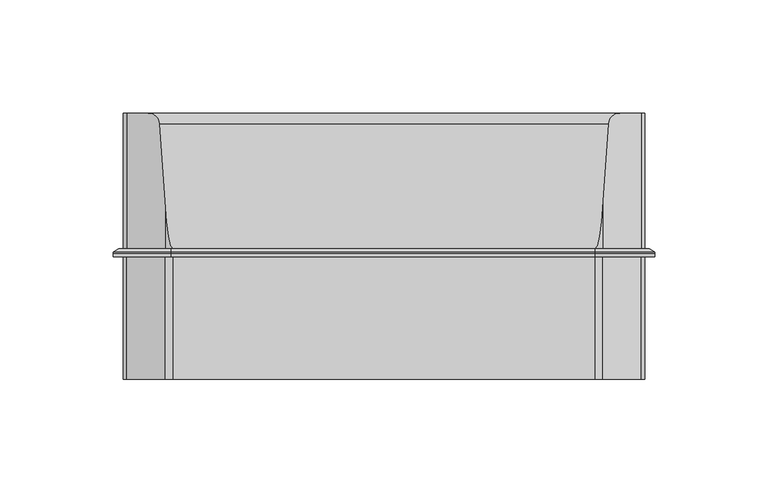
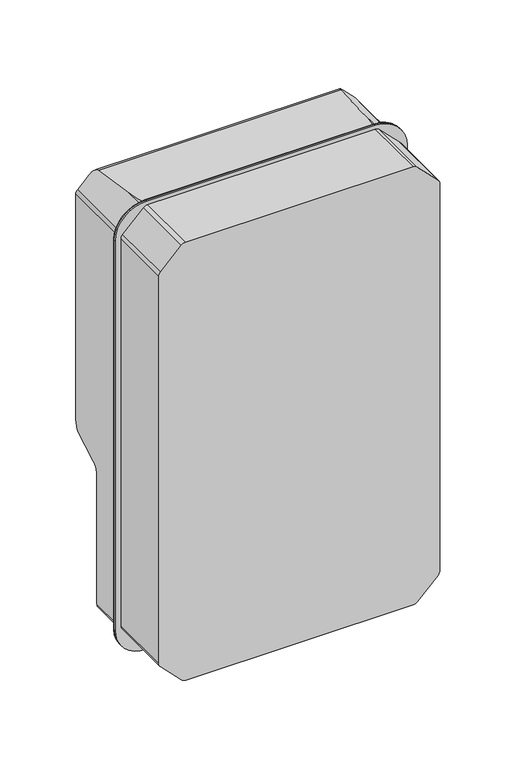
"""IFC4 building model written with IfcOpenShell, lengths in millimetres: proxy geometry, ЩУРН-П-1ф-8 : ЩУРН-П-1ф-8."""

from ifc_helpers import new_model, si_unit, point, frame, frame_2d, origin, place, context, project, spatial, polyline, circle_curve, ellipse_curve, trimmed, segment, composite_curve, outline, extrude, source, transform, mapped, element, save
from ifc_brep_helpers import plane_surface, cylinder_surface, revolved_surface, advanced_brep


def electrical_equipment_93f16f87(model_context):
    return source(origin(), model_context, "Body", "SolidModel", [
        extrude(outline(composite_curve([segment(trimmed(circle_curve(frame_2d((113.9603207, -55.5)), 2.0), [point((115.9603207, -55.5))], [point((113.9603207, -57.5))], False, "CARTESIAN"), True, "CONTINUOUS"), segment(polyline([(113.9603207, -57.5), (42.9603207, -57.5)]), True, "CONTINUOUS"), segment(trimmed(circle_curve(frame_2d((42.9603207, -55.5)), 2.0), [point((42.9603207, -57.5))], [point((40.9603207, -55.5))], False, "CARTESIAN"), True, "CONTINUOUS"), segment(polyline([(40.9603207, -55.5), (40.9603207, 55.5)]), True, "CONTINUOUS"), segment(trimmed(circle_curve(frame_2d((42.9603207, 55.5)), 2.0), [point((40.9603207, 55.5))], [point((42.9603207, 57.5))], False, "CARTESIAN"), True, "CONTINUOUS"), segment(polyline([(42.9603207, 57.5), (113.9603207, 57.5)]), True, "CONTINUOUS"), segment(trimmed(circle_curve(frame_2d((113.9603207, 55.5)), 2.0), [point((113.9603207, 57.5))], [point((115.9603207, 55.5))], False, "CARTESIAN"), True, "CONTINUOUS"), segment(polyline([(115.9603207, 55.5), (115.9603207, -55.5)]), True, "CONTINUOUS")], self_intersect=False)), frame((0.0, 107.3, 0.0), z_axis=(0.0, 1.0, 0.0), x_axis=(0.0, 0.0, 1.0)), (0.0, 0.0, 1.0), 5.0),
        extrude(outline(composite_curve([segment(trimmed(circle_curve(frame_2d((-100.2396793, -74.5)), 2.0), [point((-98.2396793, -74.5))], [point((-100.2396793, -76.5))], False, "CARTESIAN"), True, "CONTINUOUS"), segment(polyline([(-100.2396793, -76.5), (-146.2396793, -76.5)]), True, "CONTINUOUS"), segment(trimmed(circle_curve(frame_2d((-146.2396793, -74.5)), 2.0), [point((-146.2396793, -76.5))], [point((-148.2396793, -74.5))], False, "CARTESIAN"), True, "CONTINUOUS"), segment(polyline([(-148.2396793, -74.5), (-148.2396793, 74.5)]), True, "CONTINUOUS"), segment(trimmed(circle_curve(frame_2d((-146.2396793, 74.5)), 2.0), [point((-148.2396793, 74.5))], [point((-146.2396793, 76.5))], False, "CARTESIAN"), True, "CONTINUOUS"), segment(polyline([(-146.2396793, 76.5), (-100.2396793, 76.5)]), True, "CONTINUOUS"), segment(trimmed(circle_curve(frame_2d((-100.2396793, 74.5)), 2.0), [point((-100.2396793, 76.5))], [point((-98.2396793, 74.5))], False, "CARTESIAN"), True, "CONTINUOUS"), segment(polyline([(-98.2396793, 74.5), (-98.2396793, -74.5)]), True, "CONTINUOUS")], self_intersect=False)), frame((0.0, 87.3, 0.0), z_axis=(0.0, 1.0, 0.0), x_axis=(0.0, 0.0, 1.0)), (0.0, 0.0, 1.0), 5.0),
        advanced_brep(
        [(115.3, 89.8, -56.0442662), (115.3, 94.8, -47.3840122), (115.3, 117.0872807, -34.5164447), (115.3, 119.8, -25.9127981), (115.3, 119.8, 166.2644661), (115.3, 119.8, 169.1933983), (115.3, 59.8, 169.1933983), (115.3, 59.8, 166.2644661), (115.3, 59.8, -165.3355339), (115.3, 59.8, -168.2644661), (115.3, 89.8, -168.2644661), (115.3, 89.8, -165.3355339), (-115.3, 119.8, -25.9127981), (-115.3, 117.0872807, -34.5164447), (-115.3, 94.8, -47.3840122), (-115.3, 89.8, -56.0442662), (-115.3, 89.8, -165.3355339), (-115.3, 89.8, -168.2644661), (-115.3, 59.8, -168.2644661), (-115.3, 59.8, -165.3355339), (-115.3, 59.8, 166.2644661), (-115.3, 59.8, 169.1933983), (-115.3, 119.8, 169.1933983), (-115.3, 119.8, 166.2644661), (113.8355339, 59.8, 172.7289322), (96.7644661, 59.8, 189.8), (93.2289322, 59.8, 191.2644661), (89.5745517, 59.8, 191.2644661), (-89.5745517, 59.8, 191.2644661), (-93.2289322, 59.8, 191.2644661), (-96.7644661, 59.8, 189.8), (-113.8355339, 59.8, 172.7289322), (-113.8355339, 59.8, -171.8), (-96.7644661, 59.8, -188.8710678), (-93.2289322, 59.8, -190.3355339), (-89.5745517, 59.8, -190.3355339), (89.5745517, 59.8, -190.3355339), (93.2289322, 59.8, -190.3355339), (96.7644661, 59.8, -188.8710678), (113.8355339, 59.8, -171.8), (-96.7644661, 81.7669914, -188.8710678), (-96.9888397, 85.1325951, -188.6466942), (96.9888397, 85.1325951, -188.6466942), (96.7644661, 81.7669914, -188.8710678), (-101.9777655, 89.8, -183.6577684), (101.9777655, 89.8, -183.6577684), (113.8355339, 89.8, -171.8), (-113.8355339, 89.8, -171.8), (-73.35, 89.8, -100.5355339), (-73.35, 89.8, -145.3355339), (73.35, 89.8, -145.3355339), (73.35, 89.8, -100.5355339), (-113.8355339, 119.8, 172.7289322), (-104.1581841, 119.8, 182.4062819), (104.1581841, 119.8, 182.4062819), (113.8355339, 119.8, 172.7289322), (-60.0, 119.8, 138.7644661), (-85.0, 119.8, 113.7644661), (-85.0, 119.8, 43.7644661), (-60.0, 119.8, 18.7644661), (60.0, 119.8, 18.7644661), (85.0, 119.8, 43.7644661), (85.0, 119.8, 113.7644661), (60.0, 119.8, 138.7644661), (-99.1703639, 115.1487824, 187.3941022), (99.1703639, 115.1487824, 187.3941022), (96.7644661, 80.7428409, 189.8), (-96.7644661, 80.7428409, 189.8), (-60.0, 109.8, 138.7644661), (60.0, 109.8, 138.7644661), (85.0, 109.8, 113.7644661), (85.0, 109.8, 43.7644661), (60.0, 109.8, 18.7644661), (-60.0, 109.8, 18.7644661), (-85.0, 109.8, 43.7644661), (-85.0, 109.8, 113.7644661), (-55.25, 109.8, 114.6144661), (-55.25, 109.8, 42.9144661), (55.25, 109.8, 42.9144661), (55.25, 109.8, 114.6144661), (-73.35, 81.114171, -100.5355339), (73.35, 81.114171, -100.5355339), (73.35, 81.114171, -145.3355339), (-73.35, 81.114171, -145.3355339), (-55.25, 103.1985224, 114.6144661), (55.25, 103.1985224, 114.6144661), (55.25, 103.1985224, 42.9144661), (-55.25, 103.1985224, 42.9144661)],
        [
            (0, 1, circle_curve(frame((115.3, 99.8, -56.0442662), z_axis=(-1.0, 0.0, 0.0), x_axis=(0.0, 1.0, 0.0)), 10.0)),
            (1, 2),
            (2, 3, circle_curve(frame((115.3, 104.8, -25.9127981), z_axis=(1.0, 0.0, 0.0), x_axis=(0.0, 1.0, 0.0)), 15.0)),
            (3, 4),
            (4, 5),
            (5, 6),
            (6, 7),
            (7, 8),
            (8, 9),
            (9, 10),
            (10, 11),
            (11, 0),
            (12, 13, circle_curve(frame((-115.3, 104.8, -25.9127981), z_axis=(-1.0, 0.0, 0.0), x_axis=(0.0, 1.0, 0.0)), 15.0)),
            (13, 14),
            (14, 15, circle_curve(frame((-115.3, 99.8, -56.0442662), z_axis=(1.0, 0.0, 0.0), x_axis=(0.0, 1.0, 0.0)), 10.0)),
            (15, 16),
            (16, 17),
            (17, 18),
            (18, 19),
            (19, 20),
            (20, 21),
            (21, 22),
            (22, 23),
            (23, 12),
            (6, 24, circle_curve(frame((110.3, 59.8, 169.1933983), z_axis=(0.0, -1.0, 0.0), x_axis=(1.0, 0.0, 0.0)), 5.0)),
            (24, 25),
            (25, 26, circle_curve(frame((93.2289322, 59.8, 186.2644661), z_axis=(0.0, -1.0, 0.0), x_axis=(1.0, 0.0, 0.0)), 5.0)),
            (26, 27),
            (27, 28),
            (28, 29),
            (29, 30, circle_curve(frame((-93.2289322, 59.8, 186.2644661), z_axis=(0.0, -1.0, 0.0), x_axis=(1.0, 0.0, 0.0)), 5.0)),
            (30, 31),
            (31, 21, circle_curve(frame((-110.3, 59.8, 169.1933983), z_axis=(0.0, -1.0, 0.0), x_axis=(1.0, 0.0, 0.0)), 5.0)),
            (18, 32, circle_curve(frame((-110.3, 59.8, -168.2644661), z_axis=(0.0, -1.0, 0.0), x_axis=(1.0, 0.0, 0.0)), 5.0)),
            (32, 33),
            (33, 34, circle_curve(frame((-93.2289322, 59.8, -185.3355339), z_axis=(0.0, -1.0, 0.0), x_axis=(1.0, 0.0, 0.0)), 5.0)),
            (34, 35),
            (35, 36),
            (36, 37),
            (37, 38, circle_curve(frame((93.2289322, 59.8, -185.3355339), z_axis=(0.0, -1.0, 0.0), x_axis=(1.0, 0.0, 0.0)), 5.0)),
            (38, 39),
            (39, 9, circle_curve(frame((110.3, 59.8, -168.2644661), z_axis=(0.0, -1.0, 0.0), x_axis=(1.0, 0.0, 0.0)), 5.0)),
            (34, 40, ellipse_curve(frame((-93.2289322, 134.8, -185.3355339), z_axis=(0.0, 0.06651901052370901, -0.9977851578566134), x_axis=(0.0, 0.9977851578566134, 0.06651901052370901)), 75.1664819, 5.0)),
            (40, 41),
            (41, 42),
            (42, 43),
            (43, 37, ellipse_curve(frame((93.2289322, 134.8, -185.3355339), z_axis=(0.0, 0.06651901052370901, -0.9977851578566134), x_axis=(0.0, 0.9977851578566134, 0.06651901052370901)), 75.1664819, 5.0)),
            (41, 44, ellipse_curve(frame((-101.9777655, 84.8, -183.6577684), z_axis=(0.7071067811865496, 0.0, 0.7071067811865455), x_axis=(0.7071067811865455, 0.0, -0.7071067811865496)), 7.0710678, 5.0)),
            (44, 45),
            (45, 42, ellipse_curve(frame((101.9777655, 84.8, -183.6577684), z_axis=(-0.70710678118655, 0.0, 0.7071067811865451), x_axis=(0.7071067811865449, 0.0, 0.70710678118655)), 7.0710678, 5.0)),
            (15, 0),
            (10, 46, circle_curve(frame((110.3, 89.8, -168.2644661), z_axis=(0.0, 1.0, 0.0), x_axis=(1.0, 0.0, 0.0)), 5.0)),
            (46, 45),
            (44, 47),
            (47, 17, circle_curve(frame((-110.3, 89.8, -168.2644661), z_axis=(0.0, 1.0, 0.0), x_axis=(1.0, 0.0, 0.0)), 5.0)),
            (48, 49),
            (49, 50),
            (50, 51),
            (51, 48),
            (3, 12),
            (22, 52, circle_curve(frame((-110.3, 119.8, 169.1933983), z_axis=(0.0, 1.0, 0.0), x_axis=(1.0, 0.0, 0.0)), 5.0)),
            (52, 53),
            (53, 54),
            (54, 55),
            (55, 5, circle_curve(frame((110.3, 119.8, 169.1933983), z_axis=(0.0, 1.0, 0.0), x_axis=(1.0, 0.0, 0.0)), 5.0)),
            (56, 57, circle_curve(frame((-60.0, 119.8, 113.7644661), z_axis=(0.0, -1.0, 0.0), x_axis=(1.0, 0.0, 0.0)), 25.0)),
            (57, 58),
            (58, 59, circle_curve(frame((-60.0, 119.8, 43.7644661), z_axis=(0.0, -1.0, 0.0), x_axis=(1.0, 0.0, 0.0)), 25.0)),
            (59, 60),
            (60, 61, circle_curve(frame((60.0, 119.8, 43.7644661), z_axis=(0.0, -1.0, 0.0), x_axis=(1.0, 0.0, 0.0)), 25.0)),
            (61, 62),
            (62, 63, circle_curve(frame((60.0, 119.8, 113.7644661), z_axis=(0.0, -1.0, 0.0), x_axis=(1.0, 0.0, 0.0)), 25.0)),
            (63, 56),
            (53, 64, ellipse_curve(frame((-104.1581841, 114.8, 182.4062819), z_axis=(0.7071067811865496, 0.0, -0.7071067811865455), x_axis=(0.7071067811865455, 0.0, 0.7071067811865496)), 7.0710678, 5.0)),
            (64, 65),
            (65, 54, ellipse_curve(frame((104.1581841, 114.8, 182.4062819), z_axis=(-0.70710678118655, 0.0, -0.7071067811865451), x_axis=(0.7071067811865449, 0.0, -0.70710678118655)), 7.0710678, 5.0)),
            (26, 66, ellipse_curve(frame((93.2289322, 131.3033313, 186.2644661), z_axis=(0.0, 0.06975647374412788, 0.9975640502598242), x_axis=(0.0, 0.9975640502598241, -0.0697564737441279)), 71.6779351, 5.0)),
            (66, 65),
            (64, 67),
            (67, 29, ellipse_curve(frame((-93.2289322, 131.3033313, 186.2644661), z_axis=(0.0, 0.06975647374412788, 0.9975640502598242), x_axis=(0.0, 0.9975640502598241, -0.0697564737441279)), 71.6779351, 5.0)),
            (25, 66),
            (24, 55),
            (39, 46),
            (38, 43),
            (31, 52),
            (30, 67),
            (33, 40),
            (32, 47),
            (14, 1),
            (13, 2),
            (68, 69),
            (69, 70, circle_curve(frame((60.0, 109.8, 113.7644661), z_axis=(0.0, 1.0, 0.0), x_axis=(1.0, 0.0, 0.0)), 25.0)),
            (70, 71),
            (71, 72, circle_curve(frame((60.0, 109.8, 43.7644661), z_axis=(0.0, 1.0, 0.0), x_axis=(1.0, 0.0, 0.0)), 25.0)),
            (72, 73),
            (73, 74, circle_curve(frame((-60.0, 109.8, 43.7644661), z_axis=(0.0, 1.0, 0.0), x_axis=(1.0, 0.0, 0.0)), 25.0)),
            (74, 75),
            (75, 68, circle_curve(frame((-60.0, 109.8, 113.7644661), z_axis=(0.0, 1.0, 0.0), x_axis=(1.0, 0.0, 0.0)), 25.0)),
            (76, 77),
            (77, 78),
            (78, 79),
            (79, 76),
            (75, 57),
            (56, 68),
            (74, 58),
            (73, 59),
            (72, 60),
            (71, 61),
            (70, 62),
            (69, 63),
            (80, 81),
            (81, 82),
            (82, 83),
            (83, 80),
            (83, 49),
            (48, 80),
            (82, 50),
            (81, 51),
            (84, 85),
            (85, 86),
            (86, 87),
            (87, 84),
            (87, 77),
            (76, 84),
            (86, 78),
            (85, 79),
        ],
        [
            plane_surface(frame((115.3, 59.8, 191.2644661), z_axis=(1.0, 0.0, 0.0), x_axis=(0.0, 0.0, -1.0))),
            plane_surface(frame((-115.3, 59.8, 191.2644661), z_axis=(-1.0, 0.0, 0.0), x_axis=(0.0, 0.0, 1.0))),
            plane_surface(frame((115.3, 59.8, 191.2644661), z_axis=(0.0, -1.0, 0.0), x_axis=(-1.0, 0.0, 0.0))),
            plane_surface(frame((115.3, 59.8, -190.3355339), z_axis=(0.0, 0.06651901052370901, -0.9977851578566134), x_axis=(-1.0, 0.0, 0.0))),
            cylinder_surface(frame((-115.3, 84.8, -183.6577684), z_axis=(1.0, 0.0, 0.0), x_axis=(0.0, 1.0, 0.0)), 5.0),
            plane_surface(frame((115.3, 89.8, -183.6577684), z_axis=(0.0, 1.0, 0.0), x_axis=(-1.0, 0.0, 0.0))),
            plane_surface(frame((115.3, 119.8, -25.9127981), z_axis=(0.0, 1.0, 0.0), x_axis=(-1.0, 0.0, 0.0))),
            cylinder_surface(frame((-115.3, 114.8, 182.4062819), z_axis=(1.0, 0.0, 0.0), x_axis=(0.0, 1.0, 0.0)), 5.0),
            plane_surface(frame((115.3, 115.1487824, 187.3941022), z_axis=(0.0, 0.06975647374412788, 0.9975640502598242), x_axis=(-1.0, 0.0, 0.0))),
            cylinder_surface(frame((93.2289322, 119.8, 186.2644661), z_axis=(0.0, 1.0, 0.0), x_axis=(1.0, 0.0, 0.0)), 5.0),
            plane_surface(frame((96.7644661, 57.8, 189.8), z_axis=(0.70710678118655, 0.0, 0.7071067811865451), x_axis=(0.0, 1.0, 0.0))),
            cylinder_surface(frame((110.3, 119.8, 169.1933983), z_axis=(0.0, 1.0, 0.0), x_axis=(1.0, 0.0, 0.0)), 5.0),
            cylinder_surface(frame((110.3, 59.8, -168.2644661), z_axis=(0.0, 1.0, 0.0), x_axis=(1.0, 0.0, 0.0)), 5.0),
            plane_surface(frame((113.8355339, 57.8, -171.8), z_axis=(0.70710678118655, 0.0, -0.7071067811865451), x_axis=(0.0, 1.0, 0.0))),
            cylinder_surface(frame((93.2289322, 59.8, -185.3355339), z_axis=(0.0, 1.0, 0.0), x_axis=(1.0, 0.0, 0.0)), 5.0),
            cylinder_surface(frame((-110.3, 59.8, 169.1933983), z_axis=(0.0, 1.0, 0.0), x_axis=(1.0, 0.0, 0.0)), 5.0),
            plane_surface(frame((-113.8355339, 57.8, 172.7289322), z_axis=(-0.7071067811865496, 0.0, 0.7071067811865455), x_axis=(0.0, 1.0, 0.0))),
            cylinder_surface(frame((-93.2289322, 59.8, 186.2644661), z_axis=(0.0, 1.0, 0.0), x_axis=(1.0, 0.0, 0.0)), 5.0),
            cylinder_surface(frame((-93.2289322, 59.8, -185.3355339), z_axis=(0.0, 1.0, 0.0), x_axis=(1.0, 0.0, 0.0)), 5.0),
            plane_surface(frame((-96.7644661, 57.8, -188.8710678), z_axis=(-0.7071067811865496, 0.0, -0.7071067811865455), x_axis=(0.0, 1.0, 0.0))),
            cylinder_surface(frame((-110.3, 59.8, -168.2644661), z_axis=(0.0, 1.0, 0.0), x_axis=(1.0, 0.0, 0.0)), 5.0),
            revolved_surface(polyline([(-115.3, 109.8, -56.0442662), (115.3, 109.8, -56.0442662)]), (-115.3, 99.8, -56.0442662), (-1.0, 0.0, 0.0)),
            plane_surface(frame((115.3, 94.8, -47.3840122), z_axis=(0.0, 0.4999999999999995, -0.866025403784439), x_axis=(-1.0, 0.0, 0.0))),
            cylinder_surface(frame((-115.3, 104.8, -25.9127981), z_axis=(1.0, 0.0, 0.0), x_axis=(0.0, 1.0, 0.0)), 15.0),
            plane_surface(frame((-35.0, 109.8, 113.7644661), z_axis=(0.0, 1.0, 0.0), x_axis=(0.0, 0.0, 1.0))),
            revolved_surface(polyline([(-35.0, 109.8, 113.7644661), (-35.0, 119.8, 113.7644661)]), (-60.0, 119.8, 113.7644661), (0.0, -1.0, 0.0)),
            plane_surface(frame((-85.0, 109.8, 113.7644661), z_axis=(1.0, 0.0, 0.0), x_axis=(0.0, 1.0, 0.0))),
            revolved_surface(polyline([(-35.0, 109.8, 43.7644661), (-35.0, 119.8, 43.7644661)]), (-60.0, 119.8, 43.7644661), (0.0, -1.0, 0.0)),
            plane_surface(frame((-60.0, 109.8, 18.7644661), z_axis=(0.0, 0.0, 1.0), x_axis=(0.0, 1.0, 0.0))),
            revolved_surface(polyline([(85.0, 109.8, 43.7644661), (85.0, 119.8, 43.7644661)]), (60.0, 119.8, 43.7644661), (0.0, -1.0, 0.0)),
            plane_surface(frame((85.0, 109.8, 43.7644661), z_axis=(-1.0, 0.0, 0.0), x_axis=(0.0, 1.0, 0.0))),
            revolved_surface(polyline([(85.0, 109.8, 113.7644661), (85.0, 119.8, 113.7644661)]), (60.0, 119.8, 113.7644661), (0.0, -1.0, 0.0)),
            plane_surface(frame((60.0, 109.8, 138.7644661), z_axis=(0.0, 0.0, -1.0), x_axis=(0.0, 1.0, 0.0))),
            plane_surface(frame((-73.35, 81.114171, -73.6355339), z_axis=(0.0, 1.0, 0.0), x_axis=(0.0, 0.0, -1.0))),
            plane_surface(frame((-73.35, 81.114171, -100.5355339), z_axis=(1.0, 0.0, 0.0), x_axis=(0.0, 1.0, 0.0))),
            plane_surface(frame((-73.35, 81.114171, -145.3355339), z_axis=(0.0, 0.0, 1.0), x_axis=(0.0, 1.0, 0.0))),
            plane_surface(frame((73.35, 81.114171, -145.3355339), z_axis=(-1.0, 0.0, 0.0), x_axis=(0.0, 1.0, 0.0))),
            plane_surface(frame((73.35, 81.114171, -100.5355339), z_axis=(0.0, 0.0, -1.0), x_axis=(0.0, 1.0, 0.0))),
            plane_surface(frame((-55.25, 103.1985224, 87.7144661), z_axis=(0.0, 1.0, 0.0), x_axis=(0.0, 0.0, -1.0))),
            plane_surface(frame((-55.25, 103.1985224, 114.6144661), z_axis=(1.0, 0.0, 0.0), x_axis=(0.0, 1.0, 0.0))),
            plane_surface(frame((-55.25, 103.1985224, 42.9144661), z_axis=(0.0, 0.0, 1.0), x_axis=(0.0, 1.0, 0.0))),
            plane_surface(frame((55.25, 103.1985224, 42.9144661), z_axis=(-1.0, 0.0, 0.0), x_axis=(0.0, 1.0, 0.0))),
            plane_surface(frame((55.25, 103.1985224, 114.6144661), z_axis=(0.0, 0.0, -1.0), x_axis=(0.0, 1.0, 0.0))),
        ],
        [
            (0, [[1, 2, 3, 4, 5, 6, 7, 8, 9, 10, 11, 12]]),
            (1, [[13, 14, 15, 16, 17, 18, 19, 20, 21, 22, 23, 24]]),
            (2, [[-7, 25, 26, 27, 28, 29, 30, 31, 32, 33, -21, -20, -19, 34, 35, 36, 37, 38, 39, 40, 41, 42, -9, -8]]),
            (3, [[-39, -38, -37, 43, 44, 45, 46, 47]]),
            (4, [[-45, 48, 49, 50]]),
            (5, [[51, -12, -11, 52, 53, -49, 54, 55, -17, -16], [56, 57, 58, 59]]),
            (6, [[60, -24, -23, 61, 62, 63, 64, 65, -5, -4], [66, 67, 68, 69, 70, 71, 72, 73]]),
            (7, [[-63, 74, 75, 76]]),
            (8, [[-28, 77, 78, -75, 79, 80, -30, -29]]),
            (9, [[81, -77, -27]]),
            (10, [[-81, -26, 82, -64, -76, -78]]),
            (11, [[-82, -25, -6, -65]]),
            (12, [[83, -52, -10, -42]]),
            (13, [[-83, -41, 84, -46, -50, -53]]),
            (14, [[-84, -40, -47]]),
            (15, [[85, -61, -22, -33]]),
            (16, [[-85, -32, 86, -79, -74, -62]]),
            (17, [[-86, -31, -80]]),
            (18, [[87, -43, -36]]),
            (19, [[-87, -35, 88, -54, -48, -44]]),
            (20, [[-88, -34, -18, -55]]),
            (21, [[-1, -51, -15, 89]]),
            (22, [[-2, -89, -14, 90]]),
            (23, [[-3, -90, -13, -60]]),
            (24, [[91, 92, 93, 94, 95, 96, 97, 98], [99, 100, 101, 102]]),
            (25, [[-98, 103, -66, 104]]),
            (26, [[-97, 105, -67, -103]]),
            (27, [[-96, 106, -68, -105]]),
            (28, [[-95, 107, -69, -106]]),
            (29, [[-94, 108, -70, -107]]),
            (30, [[-93, 109, -71, -108]]),
            (31, [[-92, 110, -72, -109]]),
            (32, [[-91, -104, -73, -110]]),
            (33, [[111, 112, 113, 114]]),
            (34, [[-114, 115, -56, 116]]),
            (35, [[-113, 117, -57, -115]]),
            (36, [[-112, 118, -58, -117]]),
            (37, [[-111, -116, -59, -118]]),
            (38, [[119, 120, 121, 122]]),
            (39, [[-122, 123, -99, 124]]),
            (40, [[-121, 125, -100, -123]]),
            (41, [[-120, 126, -101, -125]]),
            (42, [[-119, -124, -102, -126]]),
        ],
    ),
        advanced_brep(
        [(-119.4115966, 58.533042, 168.8019569), (-94.3019569, 58.533042, 193.9115966), (-94.3019569, 59.8, 191.8), (-117.3, 59.8, 168.8019569), (-119.8, 57.8470477, 168.8019569), (-94.3019569, 57.8470477, 194.3), (-119.8, 56.2806457, 168.8019569), (-94.3019569, 56.2806457, 194.3), (-97.3, 59.8, 168.8019569), (-94.3019569, 59.8, 171.8), (-94.3019569, 56.2806457, 171.8), (-97.3, 56.2806457, 168.8019569), (-117.3, 59.8, -168.8230691), (-119.4115966, 58.533042, -168.8230691), (-119.8, 57.8470477, -168.8230691), (-119.8, 56.2806457, -168.8230691), (-97.3, 56.2806457, -168.8230691), (-97.3, 59.8, -168.8230691), (-94.3230691, 58.533042, -193.9115966), (-94.3230691, 59.8, -191.8), (-94.3230691, 57.8470477, -194.3), (-94.3230691, 56.2806457, -194.3), (-94.3230691, 59.8, -171.8), (-94.3230691, 56.2806457, -171.8), (94.2496724, 59.8, -191.8), (94.2496724, 58.533042, -193.9115966), (94.2496724, 57.8470477, -194.3), (94.2496724, 56.2806457, -194.3), (94.2496724, 56.2806457, -171.8), (94.2496724, 59.8, -171.8), (119.4115966, 58.533042, -168.7496724), (117.3, 59.8, -168.7496724), (119.8, 57.8470477, -168.7496724), (119.8, 56.2806457, -168.7496724), (97.3, 59.8, -168.7496724), (97.3, 56.2806457, -168.7496724), (117.3, 59.8, 167.8135486), (119.4115966, 58.533042, 167.8135486), (119.8, 57.8470477, 167.8135486), (119.8, 56.2806457, 167.8135486), (97.3, 56.2806457, 167.8135486), (97.3, 59.8, 167.8135486), (93.3135486, 58.533042, 193.9115966), (93.3135486, 59.8, 191.8), (93.3135486, 57.8470477, 194.3), (93.3135486, 56.2806457, 194.3), (93.3135486, 59.8, 171.8), (93.3135486, 56.2806457, 171.8)],
        [
            (0, 1, circle_curve(frame((-94.3019569, 58.533042, 168.8019569), z_axis=(0.0, 1.0, 0.0), x_axis=(0.0, 0.0, 1.0)), 25.1096397)),
            (1, 2),
            (2, 3, circle_curve(frame((-94.3019569, 59.8, 168.8019569), z_axis=(0.0, -1.0, 0.0), x_axis=(0.0, 0.0, 1.0)), 22.9980431)),
            (3, 0),
            (4, 5, circle_curve(frame((-94.3019569, 57.8470477, 168.8019569), z_axis=(0.0, 1.0, 0.0), x_axis=(0.0, 0.0, 1.0)), 25.4980431)),
            (5, 1, circle_curve(frame((-94.3019569, 57.8470477, 193.5), z_axis=(-1.0, 0.0, 0.0), x_axis=(0.0, 0.0, -1.0)), 0.8)),
            (0, 4, circle_curve(frame((-119.0, 57.8470477, 168.8019569), z_axis=(0.0, 0.0, 1.0), x_axis=(1.0, 0.0, 0.0)), 0.8)),
            (6, 7, circle_curve(frame((-94.3019569, 56.2806457, 168.8019569), z_axis=(0.0, 1.0, 0.0), x_axis=(0.0, 0.0, 1.0)), 25.4980431)),
            (7, 5),
            (4, 6),
            (8, 9, circle_curve(frame((-94.3019569, 59.8, 168.8019569), z_axis=(0.0, 1.0, 0.0), x_axis=(0.0, 0.0, 1.0)), 2.9980431)),
            (9, 10),
            (10, 11, circle_curve(frame((-94.3019569, 56.2806457, 168.8019569), z_axis=(0.0, -1.0, 0.0), x_axis=(0.0, 0.0, 1.0)), 2.9980431)),
            (11, 8),
            (3, 12),
            (12, 13),
            (13, 0),
            (13, 14, circle_curve(frame((-119.0, 57.8470477, -168.8230691), z_axis=(0.0, 0.0, 1.0), x_axis=(1.0, 0.0, 0.0)), 0.8)),
            (14, 4),
            (14, 15),
            (15, 6),
            (11, 16),
            (16, 17),
            (17, 8),
            (18, 13, circle_curve(frame((-94.3230691, 58.533042, -168.8230691), z_axis=(0.0, 1.0, 0.0), x_axis=(-1.0, 0.0, 0.0)), 25.0885275)),
            (12, 19, circle_curve(frame((-94.3230691, 59.8, -168.8230691), z_axis=(0.0, -1.0, 0.0), x_axis=(-1.0, 0.0, 0.0)), 22.9769309)),
            (19, 18),
            (20, 14, circle_curve(frame((-94.3230691, 57.8470477, -168.8230691), z_axis=(0.0, 1.0, 0.0), x_axis=(-1.0, 0.0, 0.0)), 25.4769309)),
            (18, 20, circle_curve(frame((-94.3230691, 57.8470477, -193.5), z_axis=(-1.0, 0.0, 0.0), x_axis=(0.0, 0.0, 1.0)), 0.8)),
            (21, 15, circle_curve(frame((-94.3230691, 56.2806457, -168.8230691), z_axis=(0.0, 1.0, 0.0), x_axis=(-1.0, 0.0, 0.0)), 25.4769309)),
            (20, 21),
            (22, 17, circle_curve(frame((-94.3230691, 59.8, -168.8230691), z_axis=(0.0, 1.0, 0.0), x_axis=(-1.0, 0.0, 0.0)), 2.9769309)),
            (16, 23, circle_curve(frame((-94.3230691, 56.2806457, -168.8230691), z_axis=(0.0, -1.0, 0.0), x_axis=(-1.0, 0.0, 0.0)), 2.9769309)),
            (23, 22),
            (19, 24),
            (24, 25),
            (25, 18),
            (25, 26, circle_curve(frame((94.2496724, 57.8470477, -193.5), z_axis=(-1.0, 0.0, 0.0), x_axis=(0.0, 0.0, 1.0)), 0.8)),
            (26, 20),
            (26, 27),
            (27, 21),
            (23, 28),
            (28, 29),
            (29, 22),
            (30, 25, circle_curve(frame((94.2496724, 58.533042, -168.7496724), z_axis=(0.0, 1.0, 0.0), x_axis=(0.0, 0.0, -1.0)), 25.1619242)),
            (24, 31, circle_curve(frame((94.2496724, 59.8, -168.7496724), z_axis=(0.0, -1.0, 0.0), x_axis=(0.0, 0.0, -1.0)), 23.0503276)),
            (31, 30),
            (32, 26, circle_curve(frame((94.2496724, 57.8470477, -168.7496724), z_axis=(0.0, 1.0, 0.0), x_axis=(0.0, 0.0, -1.0)), 25.5503276)),
            (30, 32, circle_curve(frame((119.0, 57.8470477, -168.7496724), z_axis=(0.0, 0.0, -1.0), x_axis=(-1.0, 0.0, 0.0)), 0.8)),
            (33, 27, circle_curve(frame((94.2496724, 56.2806457, -168.7496724), z_axis=(0.0, 1.0, 0.0), x_axis=(0.0, 0.0, -1.0)), 25.5503276)),
            (32, 33),
            (34, 29, circle_curve(frame((94.2496724, 59.8, -168.7496724), z_axis=(0.0, 1.0, 0.0), x_axis=(0.0, 0.0, -1.0)), 3.0503276)),
            (28, 35, circle_curve(frame((94.2496724, 56.2806457, -168.7496724), z_axis=(0.0, -1.0, 0.0), x_axis=(0.0, 0.0, -1.0)), 3.0503276)),
            (35, 34),
            (31, 36),
            (36, 37),
            (37, 30),
            (37, 38, circle_curve(frame((119.0, 57.8470477, 167.8135486), z_axis=(0.0, 0.0, -1.0), x_axis=(-1.0, 0.0, 0.0)), 0.8)),
            (38, 32),
            (38, 39),
            (39, 33),
            (35, 40),
            (40, 41),
            (41, 34),
            (42, 37, circle_curve(frame((93.3135486, 58.533042, 167.8135486), z_axis=(0.0, 1.0, 0.0), x_axis=(1.0, 0.0, 0.0)), 26.098048)),
            (36, 43, circle_curve(frame((93.3135486, 59.8, 167.8135486), z_axis=(0.0, -1.0, 0.0), x_axis=(1.0, 0.0, 0.0)), 23.9864514)),
            (43, 42),
            (44, 38, circle_curve(frame((93.3135486, 57.8470477, 167.8135486), z_axis=(0.0, 1.0, 0.0), x_axis=(1.0, 0.0, 0.0)), 26.4864514)),
            (42, 44, circle_curve(frame((93.3135486, 57.8470477, 193.5), z_axis=(1.0, 0.0, 0.0), x_axis=(0.0, 0.0, -1.0)), 0.8)),
            (45, 39, circle_curve(frame((93.3135486, 56.2806457, 167.8135486), z_axis=(0.0, 1.0, 0.0), x_axis=(1.0, 0.0, 0.0)), 26.4864514)),
            (44, 45),
            (46, 41, circle_curve(frame((93.3135486, 59.8, 167.8135486), z_axis=(0.0, 1.0, 0.0), x_axis=(1.0, 0.0, 0.0)), 3.9864514)),
            (40, 47, circle_curve(frame((93.3135486, 56.2806457, 167.8135486), z_axis=(0.0, -1.0, 0.0), x_axis=(1.0, 0.0, 0.0)), 3.9864514)),
            (47, 46),
            (2, 43),
            (46, 9),
            (1, 42),
            (5, 44),
            (7, 45),
            (10, 47),
        ],
        [
            revolved_surface(polyline([(-94.3019569, 59.8, 191.8), (-94.3019569, 58.533042, 193.9115966)]), (-94.3019569, 0.0, 168.8019569), (0.0, -1.0, 0.0)),
            revolved_surface(trimmed(ellipse_curve(frame((-94.3019569, 57.8470477, 193.5), z_axis=(1.0, 0.0, 0.0), x_axis=(0.0, 0.0, -1.0)), 0.8, 0.8), [point((-94.3019569, 58.533042, 193.9115966))], [point((-94.3019569, 57.8470477, 194.3))], True, "CARTESIAN"), (-94.3019569, 0.0, 168.8019569), (0.0, -1.0, 0.0)),
            cylinder_surface(frame((-94.3019569, 0.0, 168.8019569), z_axis=(0.0, -1.0, 0.0), x_axis=(0.0, 0.0, 1.0)), 25.4980431),
            revolved_surface(polyline([(-94.3019569, 56.2806457, 171.79999999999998), (-94.3019569, 59.8, 171.79999999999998)]), (-94.3019569, 0.0, 168.8019569), (0.0, -1.0, 0.0)),
            plane_surface(frame((-117.3, 59.8, 168.8019569), z_axis=(-0.514495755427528, 0.8574929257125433, 0.0), x_axis=(0.0, 0.0, -1.0))),
            cylinder_surface(frame((-119.0, 57.8470477, 168.8019569), z_axis=(0.0, 0.0, 1.0), x_axis=(1.0, 0.0, 0.0)), 0.8),
            plane_surface(frame((-119.8, 57.8470477, 168.8019569), z_axis=(-1.0, 0.0, 0.0), x_axis=(0.0, 0.0, -1.0))),
            plane_surface(frame((-97.3, 56.2806457, 168.8019569), z_axis=(1.0, 0.0, 0.0), x_axis=(0.0, 0.0, -1.0))),
            revolved_surface(polyline([(-117.3, 59.8, -168.8230691), (-119.4115966, 58.533042, -168.8230691)]), (-94.3230691, 0.0, -168.8230691), (0.0, -1.0, 0.0)),
            revolved_surface(trimmed(ellipse_curve(frame((-119.0, 57.8470477, -168.8230691), z_axis=(0.0, 0.0, 1.0), x_axis=(1.0, 0.0, 0.0)), 0.8, 0.8), [point((-119.4115966, 58.533042, -168.8230691))], [point((-119.8, 57.8470477, -168.8230691))], True, "CARTESIAN"), (-94.3230691, 0.0, -168.8230691), (0.0, -1.0, 0.0)),
            cylinder_surface(frame((-94.3230691, 0.0, -168.8230691), z_axis=(0.0, -1.0, 0.0), x_axis=(-1.0, 0.0, 0.0)), 25.4769309),
            revolved_surface(polyline([(-97.3, 56.2806457, -168.8230691), (-97.3, 59.8, -168.8230691)]), (-94.3230691, 0.0, -168.8230691), (0.0, -1.0, 0.0)),
            plane_surface(frame((-94.3230691, 59.8, -191.8), z_axis=(0.0, 0.8574929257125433, -0.514495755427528), x_axis=(1.0, 0.0, 0.0))),
            cylinder_surface(frame((-94.3230691, 57.8470477, -193.5), z_axis=(-1.0, 0.0, 0.0), x_axis=(0.0, 0.0, 1.0)), 0.8),
            plane_surface(frame((-94.3230691, 57.8470477, -194.3), z_axis=(0.0, 0.0, -1.0), x_axis=(1.0, 0.0, 0.0))),
            plane_surface(frame((-94.3230691, 56.2806457, -171.8), z_axis=(0.0, 0.0, 1.0), x_axis=(1.0, 0.0, 0.0))),
            revolved_surface(polyline([(94.2496724, 59.8, -191.8), (94.2496724, 58.533042, -193.9115966)]), (94.2496724, 0.0, -168.7496724), (0.0, -1.0, 0.0)),
            revolved_surface(trimmed(ellipse_curve(frame((94.2496724, 57.8470477, -193.5), z_axis=(-1.0, 0.0, 0.0), x_axis=(0.0, 0.0, 1.0)), 0.8, 0.8), [point((94.2496724, 58.533042, -193.9115966))], [point((94.2496724, 57.8470477, -194.3))], True, "CARTESIAN"), (94.2496724, 0.0, -168.7496724), (0.0, -1.0, 0.0)),
            cylinder_surface(frame((94.2496724, 0.0, -168.7496724), z_axis=(0.0, -1.0, 0.0), x_axis=(0.0, 0.0, -1.0)), 25.5503276),
            revolved_surface(polyline([(94.2496724, 56.2806457, -171.8), (94.2496724, 59.8, -171.8)]), (94.2496724, 0.0, -168.7496724), (0.0, -1.0, 0.0)),
            plane_surface(frame((117.3, 59.8, -168.7496724), z_axis=(0.514495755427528, 0.8574929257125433, 0.0), x_axis=(0.0, 0.0, 1.0))),
            cylinder_surface(frame((119.0, 57.8470477, -168.7496724), z_axis=(0.0, 0.0, -1.0), x_axis=(-1.0, 0.0, 0.0)), 0.8),
            plane_surface(frame((119.8, 57.8470477, -168.7496724), z_axis=(1.0, 0.0, 0.0), x_axis=(0.0, 0.0, 1.0))),
            plane_surface(frame((97.3, 56.2806457, -168.7496724), z_axis=(-1.0, 0.0, 0.0), x_axis=(0.0, 0.0, 1.0))),
            revolved_surface(polyline([(117.3, 59.8, 167.8135486), (119.4115966, 58.533042, 167.8135486)]), (93.3135486, 0.0, 167.8135486), (0.0, -1.0, 0.0)),
            revolved_surface(trimmed(ellipse_curve(frame((119.0, 57.8470477, 167.8135486), z_axis=(0.0, 0.0, -1.0), x_axis=(-1.0, 0.0, 0.0)), 0.8, 0.8), [point((119.4115966, 58.533042, 167.8135486))], [point((119.8, 57.8470477, 167.8135486))], True, "CARTESIAN"), (93.3135486, 0.0, 167.8135486), (0.0, -1.0, 0.0)),
            cylinder_surface(frame((93.3135486, 0.0, 167.8135486), z_axis=(0.0, -1.0, 0.0), x_axis=(1.0, 0.0, 0.0)), 26.4864514),
            revolved_surface(polyline([(97.30000000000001, 56.2806457, 167.8135486), (97.30000000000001, 59.8, 167.8135486)]), (93.3135486, 0.0, 167.8135486), (0.0, -1.0, 0.0)),
            plane_surface(frame((93.3135486, 59.8, 171.8), z_axis=(0.0, 1.0, 0.0), x_axis=(-1.0, 0.0, 0.0))),
            plane_surface(frame((93.3135486, 59.8, 191.8), z_axis=(0.0, 0.8574929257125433, 0.514495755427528), x_axis=(-1.0, 0.0, 0.0))),
            cylinder_surface(frame((93.3135486, 57.8470477, 193.5), z_axis=(1.0, 0.0, 0.0), x_axis=(0.0, 0.0, -1.0)), 0.8),
            plane_surface(frame((93.3135486, 57.8470477, 194.3), z_axis=(0.0, 0.0, 1.0), x_axis=(-1.0, 0.0, 0.0))),
            plane_surface(frame((93.3135486, 56.2806457, 191.8), z_axis=(0.0, -1.0, 0.0), x_axis=(-1.0, 0.0, 0.0))),
            plane_surface(frame((93.3135486, 56.2806457, 171.8), z_axis=(0.0, 0.0, -1.0), x_axis=(-1.0, 0.0, 0.0))),
        ],
        [
            (0, [[1, 2, 3, 4]]),
            (1, [[5, 6, -1, 7]]),
            (2, [[8, 9, -5, 10]]),
            (3, [[11, 12, 13, 14]]),
            (4, [[-4, 15, 16, 17]]),
            (5, [[-7, -17, 18, 19]]),
            (6, [[-10, -19, 20, 21]]),
            (7, [[-14, 22, 23, 24]]),
            (8, [[25, -16, 26, 27]]),
            (9, [[28, -18, -25, 29]]),
            (10, [[30, -20, -28, 31]]),
            (11, [[32, -23, 33, 34]]),
            (12, [[-27, 35, 36, 37]]),
            (13, [[-29, -37, 38, 39]]),
            (14, [[-31, -39, 40, 41]]),
            (15, [[-34, 42, 43, 44]]),
            (16, [[45, -36, 46, 47]]),
            (17, [[48, -38, -45, 49]]),
            (18, [[50, -40, -48, 51]]),
            (19, [[52, -43, 53, 54]]),
            (20, [[-47, 55, 56, 57]]),
            (21, [[-49, -57, 58, 59]]),
            (22, [[-51, -59, 60, 61]]),
            (23, [[-54, 62, 63, 64]]),
            (24, [[65, -56, 66, 67]]),
            (25, [[68, -58, -65, 69]]),
            (26, [[70, -60, -68, 71]]),
            (27, [[72, -63, 73, 74]]),
            (28, [[75, -66, -55, -46, -35, -26, -15, -3], [-64, -72, 76, -11, -24, -32, -44, -52]]),
            (29, [[-67, -75, -2, 77]]),
            (30, [[-69, -77, -6, 78]]),
            (31, [[-71, -78, -9, 79]]),
            (32, [[-61, -70, -79, -8, -21, -30, -41, -50], [80, -73, -62, -53, -42, -33, -22, -13]]),
            (33, [[-74, -80, -12, -76]]),
        ],
    ),
        extrude(outline(composite_curve([segment(polyline([(191.2644661, 93.2289322), (191.2644661, -93.2289322)]), True, "CONTINUOUS"), segment(trimmed(circle_curve(frame_2d((186.2644661, -93.2289322)), 5.0), [point((191.2644661, -93.2289322))], [point((189.8, -96.7644661))], False, "CARTESIAN"), True, "CONTINUOUS"), segment(polyline([(189.8, -96.7644661), (172.7289322, -113.8355339)]), True, "CONTINUOUS"), segment(trimmed(circle_curve(frame_2d((169.1933983, -110.3)), 5.0), [point((172.7289322, -113.8355339))], [point((169.1933983, -115.3))], False, "CARTESIAN"), True, "CONTINUOUS"), segment(polyline([(169.1933983, -115.3), (-166.2644661, -115.3)]), True, "CONTINUOUS"), segment(trimmed(circle_curve(frame_2d((-166.2644661, -110.3)), 5.0), [point((-166.2644661, -115.3))], [point((-169.8, -113.8355339))], False, "CARTESIAN"), True, "CONTINUOUS"), segment(polyline([(-169.8, -113.8355339), (-186.8710678, -96.7644661)]), True, "CONTINUOUS"), segment(trimmed(circle_curve(frame_2d((-183.3355339, -93.2289322)), 5.0), [point((-186.8710678, -96.7644661))], [point((-188.3355339, -93.2289322))], False, "CARTESIAN"), True, "CONTINUOUS"), segment(polyline([(-188.3355339, -93.2289322), (-188.3355339, 93.2289322)]), True, "CONTINUOUS"), segment(trimmed(circle_curve(frame_2d((-183.3355339, 93.2289322)), 5.0), [point((-188.3355339, 93.2289322))], [point((-186.8710678, 96.7644661))], False, "CARTESIAN"), True, "CONTINUOUS"), segment(polyline([(-186.8710678, 96.7644661), (-169.8, 113.8355339)]), True, "CONTINUOUS"), segment(trimmed(circle_curve(frame_2d((-166.2644661, 110.3)), 5.0), [point((-169.8, 113.8355339))], [point((-166.2644661, 115.3))], False, "CARTESIAN"), True, "CONTINUOUS"), segment(polyline([(-166.2644661, 115.3), (169.1933983, 115.3)]), True, "CONTINUOUS"), segment(trimmed(circle_curve(frame_2d((169.1933983, 110.3)), 5.0), [point((169.1933983, 115.3))], [point((172.7289322, 113.8355339))], False, "CARTESIAN"), True, "CONTINUOUS"), segment(polyline([(172.7289322, 113.8355339), (189.8, 96.7644661)]), True, "CONTINUOUS"), segment(trimmed(circle_curve(frame_2d((186.2644661, 93.2289322)), 5.0), [point((189.8, 96.7644661))], [point((191.2644661, 93.2289322))], False, "CARTESIAN"), True, "CONTINUOUS")], self_intersect=False)), frame((0.0, 2.0, 0.0), z_axis=(0.0, 1.0, 0.0), x_axis=(0.0, 0.0, 1.0)), (0.0, 0.0, 1.0), 54.2806457),
    ])


if __name__ == "__main__":
    model = new_model("IFC4")
    model_context = context("Model", 3, world=origin())
    ifc_project = project(units=[si_unit("LENGTHUNIT", "METRE", prefix="MILLI")], contexts=[model_context])
    site = spatial("IfcSite", under=ifc_project)
    building = spatial("IfcBuilding", under=site)
    placement = place(None, origin())
    electrical_equipment_shape = electrical_equipment_93f16f87(model_context)
    element("IfcBuildingElementProxy", 1, Name="ЩУРН-П-1ф-8 : ЩУРН-П-1ф-8", ObjectType="ЩУРН-П-1ф-8 : ЩУРН-П-1ф-8", at=placement, inside=building, context=model_context, shape_type="MappedRepresentation", body=[
        mapped(electrical_equipment_shape, transform((0.0, 0.0, 0.0), x_axis=(1.0, 0.0, 0.0), y_axis=(0.0, 1.0, 0.0), z_axis=(0.0, 0.0, 1.0))),
    ])
    save(model, "model.ifc")
